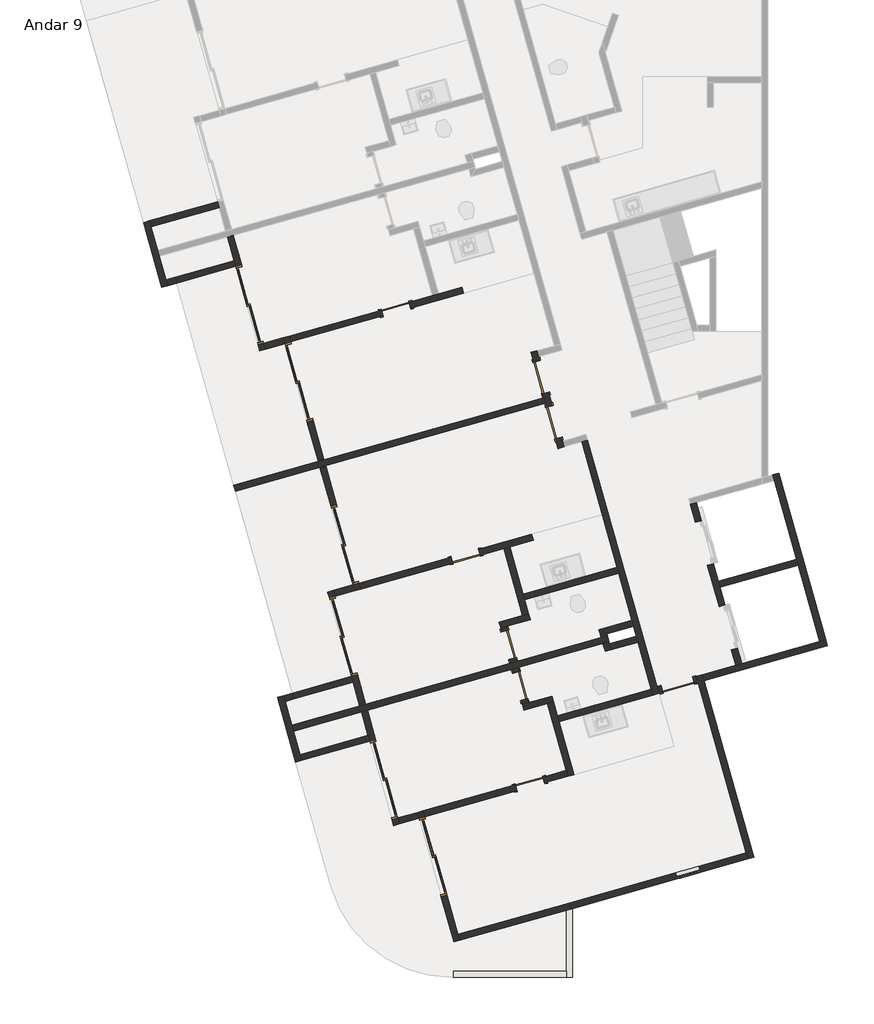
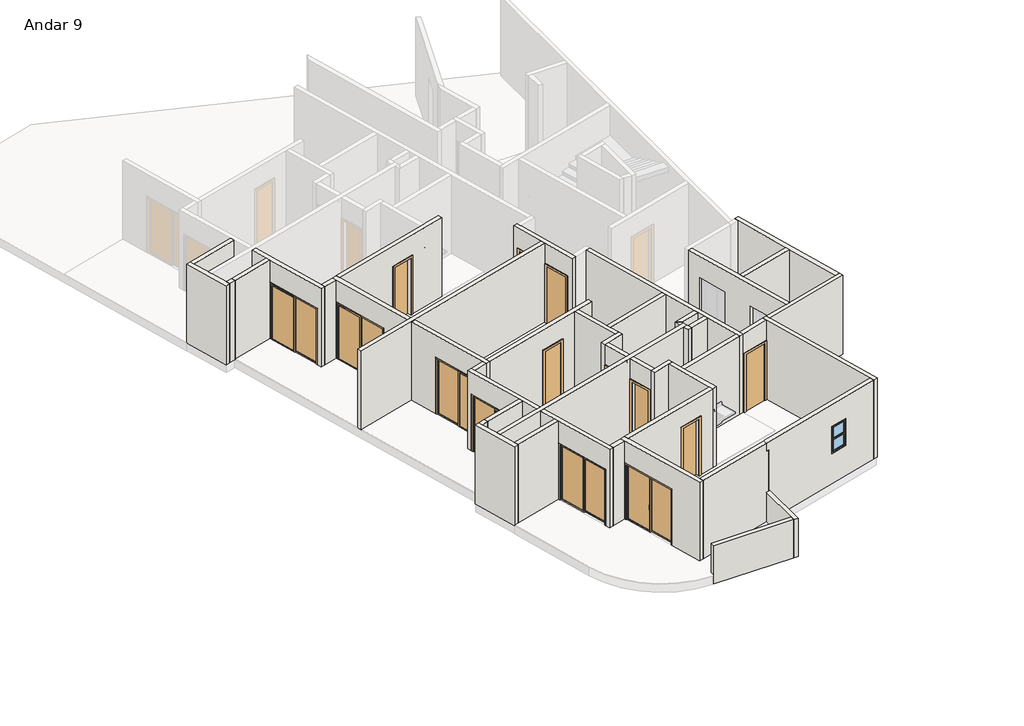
# One storey, part 1 of 3: 46 walls, 14 doors, 1 window.
"""IFC4 building model written with IfcOpenShell, lengths in millimetres."""

from ifc_helpers import new_model, si_unit, frame, origin, place, context, project, spatial, polyline, outline, extrude, faceted_brep, transform, mapped, element, save
from components import p2_80cm_9d4be4ef, p2_80cm_083652d6, p3_70cm_ef4d15e3, p3_70cm_0a698c7c, p4_correr_200cm_eaaa0877, p4_correr_200cm_830b8f20, bx_60cm_cef95a5c

model = new_model("IFC4")

# Units and contexts
model_context = context("Model", 3, world=origin())
ifc_project = project(units=[si_unit("LENGTHUNIT", "METRE", prefix="MILLI")], contexts=[model_context])

# Site, building, storey
site = spatial("IfcSite", under=ifc_project)
building = spatial("IfcBuilding", under=site)
storey = spatial("IfcBuildingStorey", under=building, Name="Andar 9", Elevation=76850.0)

# Doors
placement = place(None, origin())
p2_80cm_shape = p2_80cm_9d4be4ef(model_context)
element("IfcDoor", 1, ObjectType="M_Folha única1 : P2 - 80CM", at=placement, inside=storey, context=model_context, shape_type="MappedRepresentation", body=[
    mapped(p2_80cm_shape, transform((-80566.3456776, 19693.5423602, 76850.0), x_axis=(0.2717679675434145, -0.9623628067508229, 0.0), y_axis=(0.9623628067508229, 0.2717679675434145, 0.0), z_axis=(0.0, 0.0, 1.0))),
])
element("IfcDoor", 2, ObjectType="M_Folha única1 : P2 - 80CM", at=placement, inside=storey, context=model_context, shape_type="MappedRepresentation", body=[
    mapped(p2_80cm_shape, transform((-77213.6668366, 12144.847648, 76850.0), x_axis=(0.9623628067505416, 0.2717679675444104, 0.0), y_axis=(-0.2717679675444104, 0.9623628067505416, 0.0), z_axis=(0.0, 0.0, 1.0))),
])
p2_80cm_2_shape = p2_80cm_083652d6(model_context)
element("IfcDoor", 3, ObjectType="M_Folha única1 : P2 - 80CM", at=placement, inside=storey, context=model_context, shape_type="MappedRepresentation", body=[
    mapped(p2_80cm_2_shape, transform((-80253.8125149, 18586.8251325, 76850.0), x_axis=(-0.2717679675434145, 0.9623628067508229, 0.0), y_axis=(-0.9623628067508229, -0.2717679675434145, 0.0), z_axis=(0.0, 0.0, 1.0))),
])
p3_70cm_shape = p3_70cm_ef4d15e3(model_context)
element("IfcDoor", 4, ObjectType="M_Folha única1 : P3 - 70CM", at=placement, inside=storey, context=model_context, shape_type="MappedRepresentation", body=[
    mapped(p3_70cm_shape, transform((-84129.1775441, 21363.1168842, 76850.0), x_axis=(0.9623628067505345, 0.27176796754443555, 0.0), y_axis=(-0.27176796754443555, 0.9623628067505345, 0.0), z_axis=(0.0, 0.0, 1.0))),
])
element("IfcDoor", 5, ObjectType="M_Folha única1 : P3 - 70CM", at=placement, inside=storey, context=model_context, shape_type="MappedRepresentation", body=[
    mapped(p3_70cm_shape, transform((-80840.7851368, 9718.5269225, 76850.0), x_axis=(0.9623628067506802, 0.2717679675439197, 0.0), y_axis=(-0.2717679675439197, 0.9623628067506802, 0.0), z_axis=(0.0, 0.0, 1.0))),
])
element("IfcDoor", 6, ObjectType="M_Folha única1 : P3 - 70CM", at=placement, inside=storey, context=model_context, shape_type="MappedRepresentation", body=[
    mapped(p3_70cm_shape, transform((-81362.5862327, 13130.1209218, 76850.0), x_axis=(0.27176796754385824, -0.9623628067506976, 0.0), y_axis=(0.9623628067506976, 0.27176796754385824, 0.0), z_axis=(0.0, 0.0, 1.0))),
])
p3_70cm_2_shape = p3_70cm_0a698c7c(model_context)
element("IfcDoor", 7, ObjectType="M_Folha única1 : P3 - 70CM", at=placement, inside=storey, context=model_context, shape_type="MappedRepresentation", body=[
    mapped(p3_70cm_2_shape, transform((-81077.2298668, 12119.6399747, 76850.0), x_axis=(-0.27176796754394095, 0.9623628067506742, 0.0), y_axis=(-0.9623628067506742, -0.27176796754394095, 0.0), z_axis=(0.0, 0.0, 1.0))),
])
element("IfcDoor", 8, ObjectType="M_Folha única1 : P3 - 70CM", at=placement, inside=storey, context=model_context, shape_type="MappedRepresentation", body=[
    mapped(p3_70cm_2_shape, transform((-82417.0393485, 15300.2312016, 76850.0), x_axis=(0.9623628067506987, 0.2717679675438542, 0.0), y_axis=(-0.2717679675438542, 0.9623628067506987, 0.0), z_axis=(0.0, 0.0, 1.0))),
])
p4_correr_200cm_shape = p4_correr_200cm_eaaa0877(model_context)
element("IfcDoor", 9, ObjectType="Porta de correr dupla envidraçada sem revestimento : P4 - CORRER - 200CM", at=placement, inside=storey, context=model_context, shape_type="MappedRepresentation", body=[
    mapped(p4_correr_200cm_shape, transform((-86511.4049952, 19573.3416554, 76850.0), x_axis=(0.2717679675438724, -0.9623628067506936, 0.0), y_axis=(0.9623628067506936, 0.2717679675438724, 0.0), z_axis=(0.0, 0.0, 1.0))),
])
element("IfcDoor", 10, ObjectType="Porta de correr dupla envidraçada sem revestimento : P4 - CORRER - 200CM", at=placement, inside=storey, context=model_context, shape_type="MappedRepresentation", body=[
    mapped(p4_correr_200cm_shape, transform((-87717.4207223, 21466.8516126, 76850.0), x_axis=(0.2717679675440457, -0.9623628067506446, 0.0), y_axis=(0.9623628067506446, 0.2717679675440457, 0.0), z_axis=(0.0, 0.0, 1.0))),
])
element("IfcDoor", 11, ObjectType="Porta de correr dupla envidraçada sem revestimento : P4 - CORRER - 200CM", at=placement, inside=storey, context=model_context, shape_type="MappedRepresentation", body=[
    mapped(p4_correr_200cm_shape, transform((-84429.028315, 9822.2616509, 76850.0), x_axis=(-0.27176796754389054, 0.9623628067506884, 0.0), y_axis=(-0.9623628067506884, -0.27176796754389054, 0.0), z_axis=(0.0, 0.0, 1.0))),
])
element("IfcDoor", 12, ObjectType="Porta de correr dupla envidraçada sem revestimento : P4 - CORRER - 200CM", at=placement, inside=storey, context=model_context, shape_type="MappedRepresentation", body=[
    mapped(p4_correr_200cm_shape, transform((-83223.012588, 7928.7516937, 76850.0), x_axis=(-0.2717679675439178, 0.9623628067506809, 0.0), y_axis=(-0.9623628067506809, -0.2717679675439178, 0.0), z_axis=(0.0, 0.0, 1.0))),
])
p4_correr_200cm_2_shape = p4_correr_200cm_830b8f20(model_context)
element("IfcDoor", 13, ObjectType="Porta de correr dupla envidraçada sem revestimento : P4 - CORRER - 200CM", at=placement, inside=storey, context=model_context, shape_type="MappedRepresentation", body=[
    mapped(p4_correr_200cm_2_shape, transform((-85383.5679299, 15579.5360073, 76850.0), x_axis=(-0.2717679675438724, 0.9623628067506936, 0.0), y_axis=(-0.9623628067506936, -0.2717679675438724, 0.0), z_axis=(0.0, 0.0, 1.0))),
])
element("IfcDoor", 14, ObjectType="Porta de correr dupla envidraçada sem revestimento : P4 - CORRER - 200CM", at=placement, inside=storey, context=model_context, shape_type="MappedRepresentation", body=[
    mapped(p4_correr_200cm_2_shape, transform((-85420.9813965, 13334.8858955, 76850.0), x_axis=(-0.27176796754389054, 0.9623628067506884, 0.0), y_axis=(-0.9623628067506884, -0.27176796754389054, 0.0), z_axis=(0.0, 0.0, 1.0))),
])

# Walls
element("IfcWall", 15, ObjectType="Básica .15 - Externa", at=placement, inside=storey, context=model_context, shape_type="Brep", body=[
    faceted_brep([(-75344.9919691, 7919.3931149, 76850.0), (-76567.7484146, 12249.3196164, 76850.0), (-76608.5136097, 12393.6740374, 76850.0), (-76608.5136097, 12393.6740374, 79750.0), (-76567.7484146, 12249.3196164, 79750.0), (-75344.9919691, 7919.3931149, 79750.0), (-75489.3463901, 7878.6279198, 76850.0), (-75489.3463901, 7878.6279198, 79750.0), (-75530.1115852, 8022.9823408, 79750.0), (-76712.1028356, 12208.5544213, 79750.0), (-76752.8680308, 12352.9088423, 79750.0), (-76752.8680308, 12352.9088423, 76850.0), (-76712.1028356, 12208.5544213, 76850.0), (-75530.1115852, 8022.9823408, 76850.0)], [[[0, 1, 2, 3, 4, 5]], [[6, 7, 8, 9, 10, 11, 12, 13]], [[2, 1, 0, 6, 13, 12, 11]], [[5, 4, 3, 10, 9, 8, 7]], [[0, 5, 7, 6]], [[3, 2, 11, 10]]]),
])
element("IfcWall", 16, ObjectType="Básica .15 -  Interna", at=placement, inside=storey, context=model_context, shape_type="Brep", body=[
    faceted_brep([(-80529.815701, 19288.21464, 76850.0), (-80502.6389043, 19191.9783593, 76850.0), (-80461.8737092, 19047.6239383, 76850.0), (-80434.6969124, 18951.3876576, 76850.0), (-80434.6969124, 18951.3876576, 78950.0), (-80217.2825384, 18181.4974122, 78950.0), (-80217.2825384, 18181.4974122, 76850.0), (-80149.3405465, 17940.9067105, 76850.0), (-80149.3405465, 17940.9067105, 79750.0), (-80461.8737092, 19047.6239383, 79750.0), (-80502.6389043, 19191.9783593, 79750.0), (-80815.172067, 20298.695587, 79750.0), (-80815.172067, 20298.695587, 76850.0), (-80747.2300751, 20058.1048854, 76850.0), (-80747.2300751, 20058.1048854, 78950.0), (-80529.815701, 19288.21464, 78950.0), (-80290.3424914, 18992.1528527, 78950.0), (-80290.3424914, 18992.1528527, 76850.0), (-80385.46128, 19328.9798351, 76850.0), (-80385.46128, 19328.9798351, 78950.0), (-80602.8756541, 20098.8700805, 78950.0), (-80602.8756541, 20098.8700805, 76850.0), (-80630.0524508, 20195.1063612, 76850.0), (-80670.817646, 20339.4607822, 76850.0), (-80670.817646, 20339.4607822, 79750.0), (-80630.0524508, 20195.1063612, 79750.0), (-80045.7513206, 18126.0263266, 79750.0), (-80004.9861255, 17981.6719056, 79750.0), (-80004.9861255, 17981.6719056, 76850.0), (-80045.7513206, 18126.0263266, 76850.0), (-80072.9281174, 18222.2626073, 76850.0), (-80072.9281174, 18222.2626073, 78950.0)], [[[0, 1, 2, 3, 4, 5, 6, 7, 8, 9, 10, 11, 12, 13, 14, 15]], [[16, 17, 18, 19, 20, 21, 22, 23, 24, 25, 26, 27, 28, 29, 30, 31]], [[13, 12, 23, 22, 21]], [[18, 17, 3, 2, 1, 0]], [[30, 29, 28, 7, 6]], [[11, 10, 9, 8, 27, 26, 25, 24]], [[12, 11, 24, 23]], [[8, 7, 28, 27]], [[19, 18, 0, 15]], [[20, 19, 15, 14]], [[21, 20, 14, 13]], [[4, 3, 17, 16]], [[5, 4, 16, 31]], [[6, 5, 31, 30]]]),
])
element("IfcWall", 17, ObjectType="Básica .15 -  Interna", at=placement, inside=storey, context=model_context, shape_type="Brep", body=[
    faceted_brep([(-79571.9228624, 18103.967491, 76850.0), (-78702.2653663, 15024.4065094, 76850.0), (-78661.5001712, 14880.0520884, 76850.0), (-78335.3786101, 13725.2167203, 76850.0), (-78294.613415, 13580.8622993, 76850.0), (-78226.6714231, 13340.2715976, 76850.0), (-78185.906228, 13195.9171766, 76850.0), (-77818.8200634, 11896.0212586, 76850.0), (-77818.8200634, 11896.0212586, 79750.0), (-78185.906228, 13195.9171766, 79750.0), (-78226.6714231, 13340.2715976, 79750.0), (-78294.613415, 13580.8622993, 79750.0), (-78335.3786101, 13725.2167203, 79750.0), (-78661.5001712, 14880.0520884, 79750.0), (-78702.2653663, 15024.4065094, 79750.0), (-79571.9228624, 18103.967491, 79750.0), (-79427.5684414, 18144.7326862, 76850.0), (-79427.5684414, 18144.7326862, 79750.0), (-77715.2308375, 12081.1408747, 79750.0), (-77674.4656424, 11936.7864537, 79750.0), (-77674.4656424, 11936.7864537, 76850.0), (-77715.2308375, 12081.1408747, 76850.0)], [[[0, 1, 2, 3, 4, 5, 6, 7, 8, 9, 10, 11, 12, 13, 14, 15]], [[16, 17, 18, 19, 20, 21]], [[7, 6, 5, 4, 3, 2, 1, 0, 16, 21, 20]], [[15, 14, 13, 12, 11, 10, 9, 8, 19, 18, 17]], [[0, 15, 17, 16]], [[8, 7, 20, 19]]]),
])
element("IfcWall", 18, ObjectType="Básica .15 -  Interna", at=placement, inside=storey, context=model_context, shape_type="Brep", body=[
    faceted_brep([(-85017.5646639, 11630.3683862, 79750.0), (-85180.6254444, 12207.7860702, 79750.0), (-85221.3906395, 12352.1404912, 79750.0), (-85805.6917697, 14421.2205257, 79750.0), (-85805.6917697, 14421.2205257, 76850.0), (-85764.9265746, 14276.8661047, 76850.0), (-85764.9265746, 14276.8661047, 78950.0), (-85221.3906395, 12352.1404912, 78950.0), (-85221.3906395, 12352.1404912, 76850.0), (-85180.6254444, 12207.7860702, 76850.0), (-85017.5646639, 11630.3683862, 76850.0), (-85661.3373487, 14461.9857209, 79750.0), (-85620.5721536, 14317.6312998, 79750.0), (-84873.2102428, 11671.1335813, 79750.0), (-84873.2102428, 11671.1335813, 76850.0), (-85077.0362185, 12392.9056863, 76850.0), (-85077.0362185, 12392.9056863, 78950.0), (-85620.5721536, 14317.6312998, 78950.0), (-85620.5721536, 14317.6312998, 76850.0), (-85661.3373487, 14461.9857209, 76850.0)], [[[0, 1, 2, 3, 4, 5, 6, 7, 8, 9, 10]], [[11, 12, 13, 14, 15, 16, 17, 18, 19]], [[4, 19, 18, 5]], [[14, 10, 9, 8, 15]], [[3, 2, 1, 0, 13, 12, 11]], [[4, 3, 11, 19]], [[0, 10, 14, 13]], [[17, 6, 5, 18]], [[6, 17, 16, 7]], [[7, 16, 15, 8]]]),
])
element("IfcWall", 19, ObjectType="Básica .15 -  Interna", at=placement, inside=storey, context=model_context, shape_type="Brep", body=[
    faceted_brep([(-82710.8886682, 5839.2890616, 79750.0), (-83566.957766, 8870.7319029, 79750.0), (-83607.7229611, 9015.0863239, 79750.0), (-83607.7229611, 9015.0863239, 76850.0), (-83566.957766, 8870.7319029, 76850.0), (-83566.957766, 8870.7319029, 78950.0), (-83023.4218309, 6946.0062894, 78950.0), (-83023.4218309, 6946.0062894, 76850.0), (-82710.8886682, 5839.2890616, 76850.0), (-83463.3685401, 9055.851519, 79750.0), (-83422.603345, 8911.497098, 79750.0), (-82607.2994424, 6024.4086777, 79750.0), (-82566.5342472, 5880.0542567, 79750.0), (-82566.5342472, 5880.0542567, 76850.0), (-82607.2994424, 6024.4086777, 76850.0), (-82879.0674099, 6986.7714845, 76850.0), (-82879.0674099, 6986.7714845, 78950.0), (-83422.603345, 8911.497098, 78950.0), (-83422.603345, 8911.497098, 76850.0), (-83463.3685401, 9055.851519, 76850.0)], [[[0, 1, 2, 3, 4, 5, 6, 7, 8]], [[9, 10, 11, 12, 13, 14, 15, 16, 17, 18, 19]], [[3, 19, 18, 4]], [[13, 8, 7, 15, 14]], [[2, 1, 0, 12, 11, 10, 9]], [[3, 2, 9, 19]], [[0, 8, 13, 12]], [[17, 5, 4, 18]], [[5, 17, 16, 6]], [[6, 16, 15, 7]]]),
])
element("IfcWall", 20, ObjectType="Básica .15 -  Interna", at=placement, inside=storey, context=model_context, shape_type="Brep", body=[
    faceted_brep([(-86046.8404698, 17652.2925145, 76850.0), (-86046.8404698, 17652.2925145, 79750.0), (-86855.3501733, 20515.3218646, 79750.0), (-86896.1153684, 20659.6762856, 79750.0), (-86896.1153684, 20659.6762856, 76850.0), (-86855.3501733, 20515.3218646, 76850.0), (-86855.3501733, 20515.3218646, 78950.0), (-86311.8142382, 18590.596251, 78950.0), (-86311.8142382, 18590.596251, 76850.0), (-85902.4860488, 17693.0577096, 79750.0), (-85902.4860488, 17693.0577096, 76850.0), (-86167.4598172, 18631.3614462, 76850.0), (-86167.4598172, 18631.3614462, 78950.0), (-86710.9957523, 20556.0870597, 78950.0), (-86710.9957523, 20556.0870597, 76850.0), (-86751.7609474, 20700.4414807, 76850.0), (-86751.7609474, 20700.4414807, 79750.0), (-86710.9957523, 20556.0870597, 79750.0)], [[[0, 1, 2, 3, 4, 5, 6, 7, 8]], [[9, 10, 11, 12, 13, 14, 15, 16, 17]], [[10, 0, 8, 11]], [[4, 15, 14, 5]], [[1, 0, 10, 9]], [[3, 2, 1, 9, 17, 16]], [[4, 3, 16, 15]], [[7, 12, 11, 8]], [[12, 7, 6, 13]], [[13, 6, 5, 14]]]),
])
element("IfcWall", 21, ObjectType="Básica .15 - Externa", at=placement, inside=storey, context=model_context, shape_type="Brep", body=[
    faceted_brep([(-79945.4990038, 6620.2256515, 77950.0), (-79945.4990038, 6620.2256515, 76850.0), (-79945.4990038, 6620.2256515, 76550.0), (-79945.4990038, 5119.4122055, 76550.0), (-79945.4990038, 4969.4122055, 76550.0), (-79945.4990038, 4969.4122055, 77950.0), (-79945.4990038, 5119.4122055, 77950.0), (-79795.4990038, 6662.5851389, 76550.0), (-79795.4990038, 6662.5851389, 77950.0), (-79795.4990038, 4969.4122055, 77950.0), (-79795.4990038, 4969.4122055, 76550.0), (-79850.1164062, 6647.1613711, 76550.0)], [[[0, 1, 2, 3, 4, 5, 6]], [[7, 8, 9, 10]], [[4, 3, 2, 11, 7, 10]], [[0, 6, 5, 9, 8]], [[5, 4, 10, 9]], [[0, 8, 7, 11, 2, 1]]]),
])
element("IfcWall", 22, ObjectType="Básica .15 - Externa", at=placement, inside=storey, context=model_context, shape_type="SweptSolid", body=[
    extrude(outline(polyline([(-82713.5540687, 5119.4122055), (-79945.4990038, 5119.4122055), (-79945.4990038, 4969.4122055), (-82713.5540687, 4969.4122055), (-82713.5540687, 5119.4122055)])), frame((0.0, 0.0, 76550.0), z_axis=(0.0, 0.0, 1.0), x_axis=(1.0, 0.0, 0.0)), (0.0, 0.0, 1.0), 1400.0),
])
element("IfcWall", 23, ObjectType="Básica .15 - Externa", at=placement, inside=storey, context=model_context, shape_type="Brep", body=[
    faceted_brep([(-73581.8825825, 13248.3842954, 76850.0), (-73726.2370035, 13207.6191002, 76850.0), (-75646.150803, 12665.442005, 76850.0), (-75790.505224, 12624.6768098, 76850.0), (-76608.5136097, 12393.6740374, 76850.0), (-76608.5136097, 12393.6740374, 79750.0), (-75790.505224, 12624.6768098, 79750.0), (-75646.150803, 12665.442005, 79750.0), (-73726.2370035, 13207.6191002, 79750.0), (-73581.8825825, 13248.3842954, 79750.0), (-73541.1173874, 13104.0298743, 76850.0), (-73541.1173874, 13104.0298743, 79750.0), (-76567.7484146, 12249.3196164, 79750.0), (-76567.7484146, 12249.3196164, 76850.0)], [[[0, 1, 2, 3, 4, 5, 6, 7, 8, 9]], [[10, 11, 12, 13]], [[4, 3, 2, 1, 0, 10, 13]], [[9, 8, 7, 6, 5, 12, 11]], [[0, 9, 11, 10]], [[5, 4, 13, 12]]]),
])
element("IfcWall", 24, ObjectType="Básica .15 - Externa", at=placement, inside=storey, context=model_context, shape_type="Brep", body=[
    faceted_brep([(-74881.2508656, 17297.6610289, 76850.0), (-74840.4856705, 17153.3066079, 76850.0), (-74296.9497354, 15228.5809944, 76850.0), (-74256.1845402, 15084.2265734, 76850.0), (-73726.2370035, 13207.6191002, 76850.0), (-73726.2370035, 13207.6191002, 79750.0), (-74256.1845402, 15084.2265734, 79750.0), (-74296.9497354, 15228.5809944, 79750.0), (-74840.4856705, 17153.3066079, 79750.0), (-74881.2508656, 17297.6610289, 79750.0), (-74736.8964446, 17338.426224, 76850.0), (-74736.8964446, 17338.426224, 79750.0), (-73581.8825825, 13248.3842954, 79750.0), (-73581.8825825, 13248.3842954, 76850.0)], [[[0, 1, 2, 3, 4, 5, 6, 7, 8, 9]], [[10, 11, 12, 13]], [[4, 3, 2, 1, 0, 10, 13]], [[9, 8, 7, 6, 5, 12, 11]], [[0, 9, 11, 10]], [[5, 4, 13, 12]]]),
])
element("IfcWall", 25, ObjectType="Básica .15 -  Interna", at=placement, inside=storey, context=model_context, shape_type="Brep", body=[
    faceted_brep([(-76483.167581, 15077.4768805, 76850.0), (-76197.8112151, 14066.9959334, 76850.0), (-76197.8112151, 14066.9959334, 78975.0), (-75898.8664508, 13008.396846, 78975.0), (-75898.8664508, 13008.396846, 76850.0), (-75790.505224, 12624.6768098, 76850.0), (-75790.505224, 12624.6768098, 79750.0), (-76904.7538909, 16570.3643175, 79750.0), (-76904.7538909, 16570.3643175, 76850.0), (-76782.1123453, 16136.075968, 76850.0), (-76782.1123453, 16136.075968, 78975.0), (-76483.167581, 15077.4768805, 78975.0), (-76053.4567941, 14107.7611286, 78975.0), (-76053.4567941, 14107.7611286, 76850.0), (-76176.0983397, 14542.0494781, 76850.0), (-76216.8635348, 14686.4038991, 76850.0), (-76338.81316, 15118.2420757, 76850.0), (-76338.81316, 15118.2420757, 78975.0), (-76637.7579243, 16176.8411631, 78975.0), (-76637.7579243, 16176.8411631, 76850.0), (-76760.3994699, 16611.1295126, 76850.0), (-76760.3994699, 16611.1295126, 79750.0), (-76216.8635348, 14686.4038991, 79750.0), (-76176.0983397, 14542.0494781, 79750.0), (-75646.150803, 12665.442005, 79750.0), (-75646.150803, 12665.442005, 76850.0), (-75754.5120298, 13049.1620412, 76850.0), (-75754.5120298, 13049.1620412, 78975.0)], [[[0, 1, 2, 3, 4, 5, 6, 7, 8, 9, 10, 11]], [[12, 13, 14, 15, 16, 17, 18, 19, 20, 21, 22, 23, 24, 25, 26, 27]], [[9, 8, 20, 19]], [[26, 25, 5, 4]], [[16, 15, 14, 13, 1, 0]], [[7, 6, 24, 23, 22, 21]], [[8, 7, 21, 20]], [[6, 5, 25, 24]], [[4, 3, 27, 26]], [[2, 1, 13, 12]], [[3, 2, 12, 27]], [[19, 18, 10, 9]], [[17, 16, 0, 11]], [[18, 17, 11, 10]]]),
])
element("IfcWall", 26, ObjectType="Básica .15 -  Interna", at=placement, inside=storey, context=model_context, shape_type="SweptSolid", body=[
    extrude(outline(polyline([(-74256.1845402, 15084.2265734), (-76176.0983397, 14542.0494781), (-76216.8635348, 14686.4038991), (-74296.9497354, 15228.5809944), (-74256.1845402, 15084.2265734)])), frame((0.0, 0.0, 76850.0), z_axis=(0.0, 0.0, 1.0), x_axis=(1.0, 0.0, 0.0)), (0.0, 0.0, 1.0), 2900.0),
])
element("IfcWall", 27, ObjectType="Básica .15 -  Interna", at=placement, inside=storey, context=model_context, shape_type="Brep", body=[
    faceted_brep([(-82566.5342472, 5880.0542567, 76850.0), (-79945.4990038, 6620.2256515, 76850.0), (-79850.1164062, 6647.1613711, 76850.0), (-79850.1164062, 6647.1613711, 79450.0), (-79945.4990038, 6620.2256515, 79450.0), (-79945.4990038, 6620.2256515, 79750.0), (-82566.5342472, 5880.0542567, 79750.0), (-82607.2994424, 6024.4086777, 76850.0), (-82607.2994424, 6024.4086777, 79750.0), (-79945.4990038, 6776.0920243, 79750.0), (-79945.4990038, 6776.0920243, 79450.0), (-79890.8816014, 6791.5157921, 79450.0), (-79890.8816014, 6791.5157921, 76850.0), (-79945.4990038, 6776.0920243, 76850.0)], [[[0, 1, 2, 3, 4, 5, 6]], [[7, 8, 9, 10, 11, 12, 13]], [[2, 1, 0, 7, 13, 12]], [[6, 5, 9, 8]], [[0, 6, 8, 7]], [[2, 12, 11, 3]], [[10, 4, 3, 11]], [[5, 4, 10, 9]]]),
])
element("IfcWall", 28, ObjectType="Básica .15 -  Interna", at=placement, inside=storey, context=model_context, shape_type="Brep", body=[
    faceted_brep([(-85221.3906395, 12352.1404912, 76850.0), (-86668.7560772, 11943.4094383, 76850.0), (-86668.7560772, 11943.4094383, 79750.0), (-85221.3906395, 12352.1404912, 79750.0), (-85221.3906395, 12352.1404912, 78950.0), (-85180.6254444, 12207.7860702, 76850.0), (-85180.6254444, 12207.7860702, 79750.0), (-86627.9908821, 11799.0550173, 79750.0), (-86627.9908821, 11799.0550173, 76850.0)], [[[0, 1, 2, 3, 4]], [[5, 6, 7, 8]], [[1, 0, 5, 8]], [[2, 1, 8, 7]], [[3, 2, 7, 6]], [[0, 4, 3, 6, 5]]]),
])
element("IfcWall", 29, ObjectType="Básica .15 - Externa", at=placement, inside=storey, context=model_context, shape_type="Brep", body=[
    faceted_brep([(-86444.4738537, 10292.215871, 76850.0), (-86485.2390488, 10436.570292, 76850.0), (-86648.2998293, 11013.987976, 76850.0), (-86689.0650245, 11158.342397, 76850.0), (-86852.125805, 11735.7600811, 76850.0), (-86892.8910001, 11880.1145021, 76850.0), (-86892.8910001, 11880.1145021, 79750.0), (-86852.125805, 11735.7600811, 79750.0), (-86689.0650245, 11158.342397, 79750.0), (-86648.2998293, 11013.987976, 79750.0), (-86485.2390488, 10436.570292, 79750.0), (-86444.4738537, 10292.215871, 79750.0), (-86588.8282747, 10251.4506758, 76850.0), (-86588.8282747, 10251.4506758, 79750.0), (-87037.2454211, 11839.349307, 79750.0), (-87037.2454211, 11839.349307, 76850.0)], [[[0, 1, 2, 3, 4, 5, 6, 7, 8, 9, 10, 11]], [[12, 13, 14, 15]], [[5, 4, 3, 2, 1, 0, 12, 15]], [[11, 10, 9, 8, 7, 6, 14, 13]], [[6, 5, 15, 14]], [[0, 11, 13, 12]]]),
])
element("IfcWall", 30, ObjectType="Básica .15 -  Interna", at=placement, inside=storey, context=model_context, shape_type="Brep", body=[
    faceted_brep([(-86444.4738537, 10292.215871, 76850.0), (-84772.9734931, 10764.2418601, 76850.0), (-84772.9734931, 10764.2418601, 78950.0), (-84772.9734931, 10764.2418601, 79750.0), (-86444.4738537, 10292.215871, 79750.0), (-86485.2390488, 10436.570292, 76850.0), (-86485.2390488, 10436.570292, 79750.0), (-84813.7386882, 10908.5962811, 79750.0), (-84813.7386882, 10908.5962811, 76850.0)], [[[0, 1, 2, 3, 4]], [[5, 6, 7, 8]], [[1, 0, 5, 8]], [[4, 3, 7, 6]], [[0, 4, 6, 5]], [[3, 2, 1, 8, 7]]]),
])
element("IfcWall", 31, ObjectType="Básica .15 - Externa", at=placement, inside=storey, context=model_context, shape_type="Brep", body=[
    faceted_brep([(-89732.866261, 21936.8058326, 76850.0), (-89773.6314561, 22081.1602536, 76850.0), (-89936.6922366, 22658.5779377, 76850.0), (-89977.4574318, 22802.9323587, 76850.0), (-90140.5182123, 23380.3500428, 76850.0), (-90181.2834074, 23524.7044638, 76850.0), (-90181.2834074, 23524.7044638, 79750.0), (-90140.5182123, 23380.3500428, 79750.0), (-89977.4574318, 22802.9323587, 79750.0), (-89936.6922366, 22658.5779377, 79750.0), (-89773.6314561, 22081.1602536, 79750.0), (-89732.866261, 21936.8058326, 79750.0), (-89877.220682, 21896.0406375, 76850.0), (-89877.220682, 21896.0406375, 79750.0), (-90325.6378284, 23483.9392686, 79750.0), (-90325.6378284, 23483.9392686, 76850.0)], [[[0, 1, 2, 3, 4, 5, 6, 7, 8, 9, 10, 11]], [[12, 13, 14, 15]], [[5, 4, 3, 2, 1, 0, 12, 15]], [[11, 10, 9, 8, 7, 6, 14, 13]], [[0, 11, 13, 12]], [[6, 5, 15, 14]]]),
])
element("IfcWall", 32, ObjectType="Básica .15 -  Interna", at=placement, inside=storey, context=model_context, shape_type="Brep", body=[
    faceted_brep([(-88102.1310955, 22553.1862428, 76850.0), (-89549.4965332, 22144.4551899, 76850.0), (-89549.4965332, 22144.4551899, 79750.0), (-88102.1310955, 22553.1862428, 79750.0), (-88061.3659003, 22408.8318218, 76850.0), (-88061.3659003, 22408.8318218, 78950.0), (-88061.3659003, 22408.8318218, 79750.0), (-89508.731338, 22000.1007688, 79750.0), (-89508.731338, 22000.1007688, 76850.0)], [[[0, 1, 2, 3]], [[4, 5, 6, 7, 8]], [[1, 0, 4, 8]], [[2, 1, 8, 7]], [[3, 2, 7, 6]], [[0, 3, 6, 5, 4]]]),
])
element("IfcWall", 33, ObjectType="Básica .15 -  Interna", at=placement, inside=storey, context=model_context, shape_type="Brep", body=[
    faceted_brep([(-90140.5182123, 23380.3500428, 76850.0), (-88469.0178517, 23852.3760319, 76850.0), (-88469.0178517, 23852.3760319, 79750.0), (-90140.5182123, 23380.3500428, 79750.0), (-90181.2834074, 23524.7044638, 76850.0), (-90181.2834074, 23524.7044638, 79750.0), (-88509.7830468, 23996.7304529, 79750.0), (-88509.7830468, 23996.7304529, 78950.0), (-88509.7830468, 23996.7304529, 76850.0)], [[[0, 1, 2, 3]], [[4, 5, 6, 7, 8]], [[1, 0, 4, 8]], [[3, 2, 6, 5]], [[0, 3, 5, 4]], [[2, 1, 8, 7, 6]]]),
])
element("IfcWall", 34, ObjectType="Básica .15 -  Interna", at=placement, inside=storey, context=model_context, shape_type="Brep", body=[
    faceted_brep([(-86896.1153684, 20659.6762856, 76850.0), (-87373.4755442, 20524.8714034, 76850.0), (-87373.4755442, 20524.8714034, 78950.0), (-87373.4755442, 20524.8714034, 79750.0), (-86896.1153684, 20659.6762856, 79750.0), (-86855.3501733, 20515.3218646, 76850.0), (-86855.3501733, 20515.3218646, 78950.0), (-86855.3501733, 20515.3218646, 79750.0), (-87332.7103491, 20380.5169824, 79750.0), (-87332.7103491, 20380.5169824, 76850.0)], [[[0, 1, 2, 3, 4]], [[5, 6, 7, 8, 9]], [[1, 0, 5, 9]], [[4, 3, 8, 7]], [[0, 4, 7, 6, 5]], [[3, 2, 1, 9, 8]]]),
])
element("IfcWall", 35, ObjectType="Básica .15 -  Interna", at=placement, inside=storey, context=model_context, shape_type="Brep", body=[
    faceted_brep([(-83607.7229611, 9015.0863239, 76850.0), (-84085.083137, 8880.2814417, 76850.0), (-84085.083137, 8880.2814417, 78950.0), (-84085.083137, 8880.2814417, 79750.0), (-83607.7229611, 9015.0863239, 79750.0), (-83566.957766, 8870.7319029, 76850.0), (-83566.957766, 8870.7319029, 78950.0), (-83566.957766, 8870.7319029, 79750.0), (-84044.3179418, 8735.9270207, 79750.0), (-84044.3179418, 8735.9270207, 76850.0)], [[[0, 1, 2, 3, 4]], [[5, 6, 7, 8, 9]], [[1, 0, 5, 9]], [[4, 3, 8, 7]], [[3, 2, 1, 9, 8]], [[0, 4, 7, 6, 5]]]),
])
element("IfcWall", 36, ObjectType="Básica .15 -  Interna", at=placement, inside=storey, context=model_context, shape_type="Brep", body=[
    faceted_brep([(-85183.9771729, 14596.790603, 76850.0), (-85661.3373487, 14461.9857209, 76850.0), (-85661.3373487, 14461.9857209, 79750.0), (-85183.9771729, 14596.790603, 79750.0), (-85183.9771729, 14596.790603, 78950.0), (-85143.2119778, 14452.436182, 76850.0), (-85143.2119778, 14452.436182, 79750.0), (-85620.5721536, 14317.6312998, 79750.0), (-85620.5721536, 14317.6312998, 78950.0), (-85620.5721536, 14317.6312998, 76850.0)], [[[0, 1, 2, 3, 4]], [[5, 6, 7, 8, 9]], [[1, 0, 5, 9]], [[3, 2, 7, 6]], [[2, 1, 9, 8, 7]], [[0, 4, 3, 6, 5]]]),
])
element("IfcWall", 37, ObjectType="Básica .15 -  Interna", at=placement, inside=storey, context=model_context, shape_type="Brep", body=[
    faceted_brep([(-87477.0647701, 20339.7517872, 79750.0), (-88061.3659003, 22408.8318218, 79750.0), (-88102.1310955, 22553.1862428, 79750.0), (-88265.191876, 23130.6039268, 79750.0), (-88265.191876, 23130.6039268, 76850.0), (-88102.1310955, 22553.1862428, 76850.0), (-88061.3659003, 22408.8318218, 76850.0), (-88061.3659003, 22408.8318218, 78950.0), (-87517.8299653, 20484.1062083, 78950.0), (-87517.8299653, 20484.1062083, 76850.0), (-87477.0647701, 20339.7517872, 76850.0), (-88120.837455, 23171.369122, 79750.0), (-87373.4755442, 20524.8714034, 79750.0), (-87332.7103491, 20380.5169824, 79750.0), (-87332.7103491, 20380.5169824, 76850.0), (-87373.4755442, 20524.8714034, 76850.0), (-87373.4755442, 20524.8714034, 78950.0), (-87917.0114793, 22449.5970169, 78950.0), (-87917.0114793, 22449.5970169, 76850.0), (-88120.837455, 23171.369122, 76850.0)], [[[0, 1, 2, 3, 4, 5, 6, 7, 8, 9, 10]], [[11, 12, 13, 14, 15, 16, 17, 18, 19]], [[14, 10, 9, 15]], [[4, 19, 18, 6, 5]], [[3, 2, 1, 0, 13, 12, 11]], [[0, 10, 14, 13]], [[4, 3, 11, 19]], [[8, 16, 15, 9]], [[16, 8, 7, 17]], [[17, 7, 6, 18]]]),
])
element("IfcWall", 38, ObjectType="Básica .15 -  Interna", at=placement, inside=storey, context=model_context, shape_type="Brep", body=[
    faceted_brep([(-85143.2119778, 14452.436182, 79750.0), (-85183.9771729, 14596.790603, 79750.0), (-85992.4868763, 17459.8199531, 79750.0), (-85992.4868763, 17459.8199531, 76850.0), (-85727.513108, 16521.5162165, 76850.0), (-85727.513108, 16521.5162165, 78950.0), (-85183.9771729, 14596.790603, 78950.0), (-85183.9771729, 14596.790603, 76850.0), (-85143.2119778, 14452.436182, 76850.0), (-85848.1324553, 17500.5851482, 79750.0), (-85039.6227519, 14637.5557982, 79750.0), (-84998.8575568, 14493.2013772, 79750.0), (-84998.8575568, 14493.2013772, 76850.0), (-85039.6227519, 14637.5557982, 76850.0), (-85039.6227519, 14637.5557982, 78950.0), (-85583.158687, 16562.2814117, 78950.0), (-85583.158687, 16562.2814117, 76850.0), (-85848.1324553, 17500.5851482, 76850.0)], [[[0, 1, 2, 3, 4, 5, 6, 7, 8]], [[9, 10, 11, 12, 13, 14, 15, 16, 17]], [[3, 17, 16, 4]], [[12, 8, 7, 13]], [[2, 1, 0, 11, 10, 9]], [[3, 2, 9, 17]], [[0, 8, 12, 11]], [[15, 5, 4, 16]], [[5, 15, 14, 6]], [[6, 14, 13, 7]]]),
])
element("IfcWall", 39, ObjectType="Básica .15 -  Interna", at=placement, inside=storey, context=model_context, shape_type="SweptSolid", body=[
    extrude(outline(polyline([(-80461.8737092, 19047.6239383), (-88068.36111, 16899.5778931), (-88109.1263052, 17043.9323141), (-80502.6389043, 19191.9783593), (-80461.8737092, 19047.6239383)])), frame((0.0, 0.0, 76850.0), z_axis=(0.0, 0.0, 1.0), x_axis=(1.0, 0.0, 0.0)), (0.0, 0.0, 1.0), 2900.0),
])
element("IfcWall", 40, ObjectType="Básica .15 -  Interna", at=placement, inside=storey, context=model_context, shape_type="Brep", body=[
    faceted_brep([(-78945.0553533, 13345.2242614, 76850.0), (-81168.1134369, 12717.4402563, 76850.0), (-81312.4678579, 12676.6750612, 76850.0), (-84873.2102428, 11671.1335813, 76850.0), (-85017.5646639, 11630.3683862, 76850.0), (-86689.0650245, 11158.342397, 76850.0), (-86689.0650245, 11158.342397, 79750.0), (-85017.5646639, 11630.3683862, 79750.0), (-84873.2102428, 11671.1335813, 79750.0), (-81312.4678579, 12676.6750612, 79750.0), (-81168.1134369, 12717.4402563, 79750.0), (-78945.0553533, 13345.2242614, 79750.0), (-78904.2901581, 13200.8698403, 76850.0), (-78904.2901581, 13200.8698403, 79750.0), (-81127.3482417, 12573.0858353, 79750.0), (-81271.7026627, 12532.3206402, 79750.0), (-84832.4450477, 11526.7791603, 79750.0), (-84976.7994687, 11486.0139651, 79750.0), (-86648.2998293, 11013.987976, 79750.0), (-86648.2998293, 11013.987976, 76850.0), (-84976.7994687, 11486.0139651, 76850.0), (-84832.4450477, 11526.7791603, 76850.0), (-81271.7026627, 12532.3206402, 76850.0), (-81127.3482417, 12573.0858353, 76850.0)], [[[0, 1, 2, 3, 4, 5, 6, 7, 8, 9, 10, 11]], [[12, 13, 14, 15, 16, 17, 18, 19, 20, 21, 22, 23]], [[5, 4, 3, 2, 1, 0, 12, 23, 22, 21, 20, 19]], [[11, 10, 9, 8, 7, 6, 18, 17, 16, 15, 14, 13]], [[0, 11, 13, 12]], [[6, 5, 19, 18]]]),
])
element("IfcWall", 41, ObjectType="Básica .15 -  Interna", at=placement, inside=storey, context=model_context, shape_type="Brep", body=[
    faceted_brep([(-84188.6723628, 8695.1618256, 79750.0), (-84772.9734931, 10764.2418601, 79750.0), (-84813.7386882, 10908.5962811, 79750.0), (-84976.7994687, 11486.0139651, 79750.0), (-84976.7994687, 11486.0139651, 76850.0), (-84813.7386882, 10908.5962811, 76850.0), (-84772.9734931, 10764.2418601, 76850.0), (-84772.9734931, 10764.2418601, 78950.0), (-84229.437558, 8839.5162466, 78950.0), (-84229.437558, 8839.5162466, 76850.0), (-84188.6723628, 8695.1618256, 76850.0), (-84832.4450477, 11526.7791603, 79750.0), (-84085.083137, 8880.2814417, 79750.0), (-84044.3179418, 8735.9270207, 79750.0), (-84044.3179418, 8735.9270207, 76850.0), (-84085.083137, 8880.2814417, 76850.0), (-84085.083137, 8880.2814417, 78950.0), (-84628.6190721, 10805.0070552, 78950.0), (-84628.6190721, 10805.0070552, 76850.0), (-84832.4450477, 11526.7791603, 76850.0)], [[[0, 1, 2, 3, 4, 5, 6, 7, 8, 9, 10]], [[11, 12, 13, 14, 15, 16, 17, 18, 19]], [[14, 10, 9, 15]], [[4, 19, 18, 6, 5]], [[3, 2, 1, 0, 13, 12, 11]], [[0, 10, 14, 13]], [[4, 3, 11, 19]], [[17, 7, 6, 18]], [[7, 17, 16, 8]], [[8, 16, 15, 9]]]),
])
element("IfcWall", 42, ObjectType="Básica .15 - Externa", at=placement, inside=storey, context=model_context, shape_type="Brep", body=[
    faceted_brep([(-79850.1164062, 6647.1613711, 79450.0), (-79850.1164062, 6647.1613711, 76850.0), (-75489.3463901, 7878.6279198, 76850.0), (-75489.3463901, 7878.6279198, 79750.0), (-79850.1164062, 6647.1613711, 79750.0), (-79945.4990038, 6620.2256515, 79750.0), (-79945.4990038, 6620.2256515, 79450.0), (-76649.6431667, 7550.9640756, 77950.0), (-77227.0608508, 7387.9032951, 77950.0), (-77227.0608508, 7387.9032951, 78950.0), (-76649.6431667, 7550.9640756, 78950.0), (-79890.8816014, 6791.5157921, 76850.0), (-79890.8816014, 6791.5157921, 79450.0), (-79945.4990038, 6776.0920243, 79450.0), (-79945.4990038, 6776.0920243, 79750.0), (-79890.8816014, 6791.5157921, 79750.0), (-75530.1115852, 8022.9823408, 79750.0), (-75530.1115852, 8022.9823408, 76850.0), (-76690.4083619, 7695.3184966, 77950.0), (-76690.4083619, 7695.3184966, 78950.0), (-77267.8260459, 7532.2577161, 78950.0), (-77267.8260459, 7532.2577161, 77950.0)], [[[0, 1, 2, 3, 4, 5, 6], [7, 8, 9, 10]], [[11, 12, 13, 14, 15, 16, 17], [18, 19, 20, 21]], [[2, 1, 11, 17]], [[5, 4, 3, 16, 15, 14]], [[18, 21, 8, 7]], [[21, 20, 9, 8]], [[20, 19, 10, 9]], [[19, 18, 7, 10]], [[3, 2, 17, 16]], [[0, 12, 11, 1]], [[6, 13, 12, 0]], [[6, 5, 14, 13]]]),
])
element("IfcWall", 43, ObjectType="Básica .15 - Externa", at=placement, inside=storey, context=model_context, shape_type="SweptSolid", body=[
    extrude(outline(polyline([(-89773.6314561, 22081.1602536), (-89549.4965332, 22144.4551899), (-89508.731338, 22000.1007688), (-89732.866261, 21936.8058326), (-89773.6314561, 22081.1602536)])), frame((0.0, 0.0, 76850.0), z_axis=(0.0, 0.0, 1.0), x_axis=(1.0, 0.0, 0.0)), (0.0, 0.0, 1.0), 2900.0),
])
element("IfcWall", 44, ObjectType="Básica .15 - Externa", at=placement, inside=storey, context=model_context, shape_type="SweptSolid", body=[
    extrude(outline(polyline([(-86892.8910001, 11880.1145021), (-86668.7560772, 11943.4094383), (-86627.9908821, 11799.0550173), (-86852.125805, 11735.7600811), (-86892.8910001, 11880.1145021)])), frame((0.0, 0.0, 76850.0), z_axis=(0.0, 0.0, 1.0), x_axis=(1.0, 0.0, 0.0)), (0.0, 0.0, 1.0), 2900.0),
])
element("IfcWall", 45, ObjectType="Básica .15 -  Interna", at=placement, inside=storey, context=model_context, shape_type="Brep", body=[
    faceted_brep([(-82513.5433702, 21897.2996395, 76850.0), (-83090.9610542, 21734.238859, 76850.0), (-83235.3154752, 21693.4736638, 76850.0), (-83812.7331593, 21530.4128833, 76850.0), (-83812.7331593, 21530.4128833, 78950.0), (-84486.387124, 21340.175306, 78950.0), (-84486.387124, 21340.175306, 76850.0), (-86751.7609474, 20700.4414807, 76850.0), (-86751.7609474, 20700.4414807, 79750.0), (-83235.3154752, 21693.4736638, 79750.0), (-83090.9610542, 21734.238859, 79750.0), (-82513.5433702, 21897.2996395, 79750.0), (-83771.9679641, 21386.0584623, 78950.0), (-83771.9679641, 21386.0584623, 76850.0), (-82472.778175, 21752.9452185, 76850.0), (-82472.778175, 21752.9452185, 79750.0), (-86710.9957523, 20556.0870597, 79750.0), (-86710.9957523, 20556.0870597, 78950.0), (-86710.9957523, 20556.0870597, 76850.0), (-84445.6219289, 21195.820885, 76850.0), (-84445.6219289, 21195.820885, 78950.0)], [[[0, 1, 2, 3, 4, 5, 6, 7, 8, 9, 10, 11]], [[12, 13, 14, 15, 16, 17, 18, 19, 20]], [[19, 18, 7, 6]], [[14, 13, 3, 2, 1, 0]], [[11, 10, 9, 8, 16, 15]], [[0, 11, 15, 14]], [[4, 3, 13, 12]], [[5, 4, 12, 20]], [[6, 5, 20, 19]], [[8, 7, 18, 17, 16]]]),
])
element("IfcWall", 46, ObjectType="Básica .15 -  Interna", at=placement, inside=storey, context=model_context, shape_type="SweptSolid", body=[
    extrude(outline(polyline([(-80169.4554031, 11388.8386864), (-77859.7846669, 12041.0818085), (-77819.0194718, 11896.7273875), (-80128.690208, 11244.4842654), (-80169.4554031, 11388.8386864)])), frame((0.0, 0.0, 76850.0), z_axis=(0.0, 0.0, 1.0), x_axis=(1.0, 0.0, 0.0)), (0.0, 0.0, 1.0), 2900.0),
])
element("IfcWall", 47, ObjectType="Básica .15 -  Interna", at=placement, inside=storey, context=model_context, shape_type="SweptSolid", body=[
    extrude(outline(polyline([(-78185.906228, 13195.9171766), (-78849.9365646, 13008.397279), (-78890.7017597, 13152.7517), (-78226.6714231, 13340.2715976), (-78185.906228, 13195.9171766)])), frame((0.0, 0.0, 76850.0), z_axis=(0.0, 0.0, 1.0), x_axis=(1.0, 0.0, 0.0)), (0.0, 0.0, 1.0), 2900.0),
])
element("IfcWall", 48, ObjectType="Básica .15 -  Interna", at=placement, inside=storey, context=model_context, shape_type="Brep", body=[
    faceted_brep([(-80986.3462968, 11521.8396931, 76850.0), (-80408.9286128, 11684.9004736, 76850.0), (-80264.5741917, 11725.6656688, 76850.0), (-80264.5741917, 11725.6656688, 79750.0), (-80408.9286128, 11684.9004736, 79750.0), (-80986.3462968, 11521.8396931, 79750.0), (-81027.1114919, 11666.1941141, 76850.0), (-81027.1114919, 11666.1941141, 79750.0), (-80882.7570709, 11706.9593092, 79750.0), (-80305.3393869, 11870.0200898, 79750.0), (-80305.3393869, 11870.0200898, 76850.0), (-80882.7570709, 11706.9593092, 76850.0)], [[[0, 1, 2, 3, 4, 5]], [[6, 7, 8, 9, 10, 11]], [[2, 1, 0, 6, 11, 10]], [[5, 4, 3, 9, 8, 7]], [[0, 5, 7, 6]], [[3, 2, 10, 9]]]),
])
element("IfcWall", 49, ObjectType="Básica .15 -  Interna", at=placement, inside=storey, context=model_context, shape_type="SweptSolid", body=[
    extrude(outline(polyline([(900.0, -2900.0), (0.0, -2900.0), (0.0, 0.0), (100.0, 0.0), (100.0, -2100.0), (800.0, -2100.0), (800.0, 0.0), (900.0, 0.0), (900.0, -2900.0)])), frame((-81271.7026627, 12532.3206402, 76850.0), z_axis=(0.9623628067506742, 0.271767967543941, 0.0), x_axis=(0.271767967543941, -0.9623628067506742, 0.0)), (0.0, 0.0, 1.0), 150.0),
])
element("IfcWall", 50, ObjectType="Básica .15 -  Interna", at=placement, inside=storey, context=model_context, shape_type="Brep", body=[
    faceted_brep([(-80408.9286128, 11684.9004736, 76850.0), (-79946.9230679, 10048.8837021, 76850.0), (-79906.1578728, 9904.5292811, 76850.0), (-79906.1578728, 9904.5292811, 79750.0), (-79946.9230679, 10048.8837021, 79750.0), (-80408.9286128, 11684.9004736, 79750.0), (-80264.5741917, 11725.6656688, 76850.0), (-80264.5741917, 11725.6656688, 79750.0), (-80169.4554031, 11388.8386864, 79750.0), (-80128.690208, 11244.4842654, 79750.0), (-79761.8034518, 9945.2944763, 79750.0), (-79761.8034518, 9945.2944763, 76850.0), (-80128.690208, 11244.4842654, 76850.0), (-80169.4554031, 11388.8386864, 76850.0)], [[[0, 1, 2, 3, 4, 5]], [[6, 7, 8, 9, 10, 11, 12, 13]], [[2, 1, 0, 6, 13, 12, 11]], [[5, 4, 3, 10, 9, 8, 7]], [[3, 2, 11, 10]], [[0, 5, 7, 6]]]),
])
element("IfcWall", 51, ObjectType="Básica .15 -  Interna", at=placement, inside=storey, context=model_context, shape_type="Brep", body=[
    faceted_brep([(-79946.9230679, 10048.8837021, 76850.0), (-80524.340752, 9885.8229216, 76850.0), (-80524.340752, 9885.8229216, 78950.0), (-81197.9947167, 9695.5853443, 78950.0), (-81197.9947167, 9695.5853443, 76850.0), (-83463.3685401, 9055.851519, 76850.0), (-83463.3685401, 9055.851519, 79750.0), (-79946.9230679, 10048.8837021, 79750.0), (-80483.5755569, 9741.4685006, 78950.0), (-80483.5755569, 9741.4685006, 76850.0), (-79906.1578728, 9904.5292811, 76850.0), (-79906.1578728, 9904.5292811, 79750.0), (-83422.603345, 8911.497098, 79750.0), (-83422.603345, 8911.497098, 78950.0), (-83422.603345, 8911.497098, 76850.0), (-81157.2295216, 9551.2309233, 76850.0), (-81157.2295216, 9551.2309233, 78950.0)], [[[0, 1, 2, 3, 4, 5, 6, 7]], [[8, 9, 10, 11, 12, 13, 14, 15, 16]], [[15, 14, 5, 4]], [[10, 9, 1, 0]], [[7, 6, 12, 11]], [[2, 1, 9, 8]], [[3, 2, 8, 16]], [[4, 3, 16, 15]], [[0, 7, 11, 10]], [[6, 5, 14, 13, 12]]]),
])
element("IfcWall", 52, ObjectType="Básica .15 -  Interna", at=placement, inside=storey, context=model_context, shape_type="Brep", body=[
    faceted_brep([(-79048.6445791, 13160.1046452, 76850.0), (-78994.2909856, 12967.6320839, 76850.0), (-78994.2909856, 12967.6320839, 79750.0), (-79048.6445791, 13160.1046452, 79750.0), (-78904.2901581, 13200.8698403, 76850.0), (-78904.2901581, 13200.8698403, 79750.0), (-78890.7017597, 13152.7517, 79750.0), (-78849.9365646, 13008.397279, 79750.0), (-78849.9365646, 13008.397279, 76850.0), (-78890.7017597, 13152.7517, 76850.0)], [[[0, 1, 2, 3]], [[4, 5, 6, 7, 8, 9]], [[1, 0, 4, 9, 8]], [[3, 2, 7, 6, 5]], [[0, 3, 5, 4]], [[2, 1, 8, 7]]]),
])
element("IfcWall", 53, ObjectType="Básica .15 -  Interna", at=placement, inside=storey, context=model_context, shape_type="SweptSolid", body=[
    extrude(outline(polyline([(-79143.7633678, 13496.9316276), (-78335.3786101, 13725.2167203), (-78294.613415, 13580.8622993), (-78958.6437516, 13393.3424017), (-79143.7633678, 13496.9316276)])), frame((0.0, 0.0, 76850.0), z_axis=(0.0, 0.0, 1.0), x_axis=(1.0, 0.0, 0.0)), (0.0, 0.0, 1.0), 2900.0),
])
element("IfcWall", 54, ObjectType="Básica .15 -  Interna", at=placement, inside=storey, context=model_context, shape_type="SweptSolid", body=[
    extrude(outline(polyline([(-79089.4097743, 13304.4590662), (-79143.7633678, 13496.9316276), (-78958.6437516, 13393.3424017), (-78945.0553533, 13345.2242614), (-79089.4097743, 13304.4590662)])), frame((0.0, 0.0, 76850.0), z_axis=(0.0, 0.0, 1.0), x_axis=(1.0, 0.0, 0.0)), (0.0, 0.0, 1.0), 2900.0),
])
element("IfcWall", 55, ObjectType="Básica .15 -  Interna", at=placement, inside=storey, context=model_context, shape_type="Brep", body=[
    faceted_brep([(-80876.0521187, 13890.981984, 76850.0), (-81020.4065397, 13850.2167888, 76850.0), (-81597.8242238, 13687.1560083, 76850.0), (-81597.8242238, 13687.1560083, 79750.0), (-81020.4065397, 13850.2167888, 79750.0), (-80876.0521187, 13890.981984, 79750.0), (-80835.2869236, 13746.6275629, 76850.0), (-80835.2869236, 13746.6275629, 79750.0), (-81412.7046076, 13583.5667824, 79750.0), (-81557.0590287, 13542.8015873, 79750.0), (-81557.0590287, 13542.8015873, 76850.0), (-81412.7046076, 13583.5667824, 76850.0)], [[[0, 1, 2, 3, 4, 5]], [[6, 7, 8, 9, 10, 11]], [[2, 1, 0, 6, 11, 10]], [[5, 4, 3, 9, 8, 7]], [[0, 5, 7, 6]], [[3, 2, 10, 9]]]),
])
element("IfcWall", 56, ObjectType="Básica .15 -  Interna", at=placement, inside=storey, context=model_context, shape_type="Brep", body=[
    faceted_brep([(-81482.4120846, 15486.2335603, 76850.0), (-81020.4065397, 13850.2167888, 76850.0), (-81020.4065397, 13850.2167888, 79750.0), (-81482.4120846, 15486.2335603, 79750.0), (-81338.0576635, 15526.9987554, 76850.0), (-81338.0576635, 15526.9987554, 79750.0), (-81011.9361025, 14372.1633873, 79750.0), (-80971.1709074, 14227.8089663, 79750.0), (-80876.0521187, 13890.981984, 79750.0), (-80876.0521187, 13890.981984, 76850.0), (-80971.1709074, 14227.8089663, 76850.0), (-81011.9361025, 14372.1633873, 76850.0)], [[[0, 1, 2, 3]], [[4, 5, 6, 7, 8, 9, 10, 11]], [[1, 0, 4, 11, 10, 9]], [[3, 2, 8, 7, 6, 5]], [[0, 3, 5, 4]], [[2, 1, 9, 8]]]),
])
element("IfcWall", 57, ObjectType="Básica .15 -  Interna", at=placement, inside=storey, context=model_context, shape_type="SweptSolid", body=[
    extrude(outline(polyline([(-81011.9361025, 14372.1633873), (-78702.2653663, 15024.4065094), (-78661.5001712, 14880.0520884), (-80971.1709074, 14227.8089663), (-81011.9361025, 14372.1633873)])), frame((0.0, 0.0, 76850.0), z_axis=(0.0, 0.0, 1.0), x_axis=(1.0, 0.0, 0.0)), (0.0, 0.0, 1.0), 2900.0),
])
element("IfcWall", 58, ObjectType="Básica .15 -  Interna", at=placement, inside=storey, context=model_context, shape_type="Brep", body=[
    faceted_brep([(-80801.4051746, 15834.413957, 76850.0), (-82100.5949637, 15467.5272008, 76850.0), (-82100.5949637, 15467.5272008, 78950.0), (-82774.2489285, 15277.2896235, 78950.0), (-82774.2489285, 15277.2896235, 76850.0), (-85039.6227519, 14637.5557982, 76850.0), (-85039.6227519, 14637.5557982, 78950.0), (-85039.6227519, 14637.5557982, 79750.0), (-80801.4051746, 15834.413957, 79750.0), (-82059.8297686, 15323.1727798, 78950.0), (-82059.8297686, 15323.1727798, 76850.0), (-81482.4120846, 15486.2335603, 76850.0), (-81338.0576635, 15526.9987554, 76850.0), (-80760.6399795, 15690.059536, 76850.0), (-80760.6399795, 15690.059536, 79750.0), (-81338.0576635, 15526.9987554, 79750.0), (-81482.4120846, 15486.2335603, 79750.0), (-84998.8575568, 14493.2013772, 79750.0), (-84998.8575568, 14493.2013772, 76850.0), (-82733.4837333, 15132.9352025, 76850.0), (-82733.4837333, 15132.9352025, 78950.0)], [[[0, 1, 2, 3, 4, 5, 6, 7, 8]], [[9, 10, 11, 12, 13, 14, 15, 16, 17, 18, 19, 20]], [[19, 18, 5, 4]], [[13, 12, 11, 10, 1, 0]], [[8, 7, 17, 16, 15, 14]], [[0, 8, 14, 13]], [[2, 1, 10, 9]], [[3, 2, 9, 20]], [[4, 3, 20, 19]], [[7, 6, 5, 18, 17]]]),
])
element("IfcWall", 59, ObjectType="Básica .15 -  Interna", at=placement, inside=storey, context=model_context, shape_type="SweptSolid", body=[
    extrude(outline(polyline([(-250.0, -2100.0), (-250.0, 0.0), (-150.0, 0.0), (-150.0, -2900.0), (-1050.0, -2900.0), (-1050.0, 0.0), (-950.0, 0.0), (-950.0, -2100.0), (-250.0, -2100.0)])), frame((-81271.7026627, 12532.3206402, 76850.0), z_axis=(0.9623628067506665, 0.2717679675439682, 0.0), x_axis=(0.2717679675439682, -0.9623628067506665, 0.0)), (0.0, 0.0, 1.0), 150.0),
])
element("IfcWall", 60, ObjectType="Básica .15 -  Interna", at=placement, inside=storey, context=model_context, shape_type="SweptSolid", body=[
    extrude(outline(polyline([(-1100.0, -2100.0), (-1100.0, 0.0), (-999.9999999, 0.0), (-999.9999999, -2900.0), (-2000.0, -2900.0), (-2000.0, 0.0), (-1900.0, 0.0), (-1900.0, -2100.0), (-1100.0, -2100.0)])), frame((-75749.7400289, 12480.3223888, 76850.0), z_axis=(-0.2717679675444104, 0.9623628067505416, 0.0), x_axis=(0.9623628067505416, 0.2717679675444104, 0.0)), (0.0, 0.0, 1.0), 150.0),
])

# Window
bx_60cm_shape = bx_60cm_cef95a5c(model_context)
element("IfcWindow", 61, ObjectType="Janela pivotante horizontal - 2 Painéis : BX - 60CM", at=placement, inside=storey, context=model_context, shape_type="MappedRepresentation", body=[
    mapped(bx_60cm_shape, transform((-76958.7346063, 7541.6108959, 77300.0), x_axis=(-0.9623628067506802, -0.27176796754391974, 0.0), y_axis=(0.27176796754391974, -0.9623628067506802, 0.0), z_axis=(0.0, 0.0, 1.0))),
])

save(model, "model.ifc")
